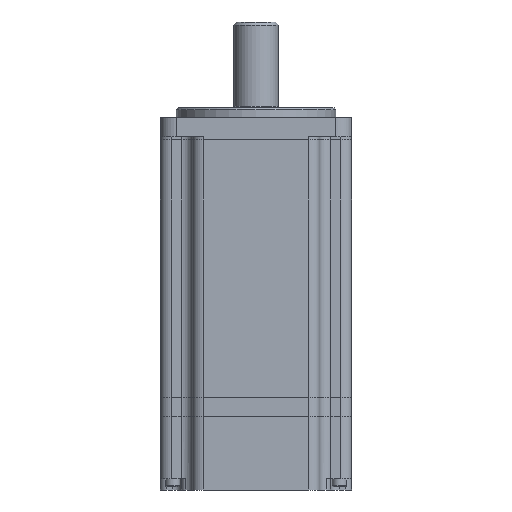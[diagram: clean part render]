
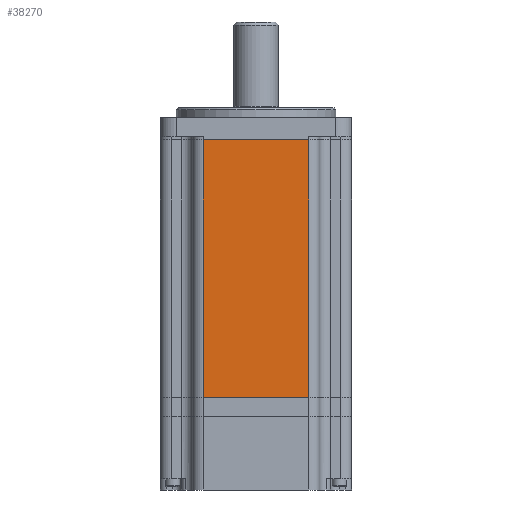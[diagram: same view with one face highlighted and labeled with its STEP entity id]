
A CAD part, front view. The second image highlights one B-rep face of the part: STEP entity #38270.
In plain terms, the highlighted planar face has unit normal (0, -1, 0).
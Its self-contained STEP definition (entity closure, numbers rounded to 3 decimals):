
#860 = LINE ( 'NONE', #16655, #31867 ) ;
#888 = CARTESIAN_POINT ( 'NONE',  ( -16.5, -30., -1. ) ) ;
#1382 = DIRECTION ( 'NONE',  ( 0., 0., 1. ) ) ;
#2162 = DIRECTION ( 'NONE',  ( 0., 0., 1. ) ) ;
#2744 = CARTESIAN_POINT ( 'NONE',  ( 20., -30., -1. ) ) ;
#2882 = DIRECTION ( 'NONE',  ( -1., 0., 0. ) ) ;
#3559 = ORIENTED_EDGE ( 'NONE', *, *, #10321, .T. ) ;
#4873 = VERTEX_POINT ( 'NONE', #37289 ) ;
#5170 = CARTESIAN_POINT ( 'NONE',  ( 16.5, -30., -82. ) ) ;
#6321 = FACE_OUTER_BOUND ( 'NONE', #38835, .T. ) ;
#10110 = CARTESIAN_POINT ( 'NONE',  ( 16.5, -30., -82. ) ) ;
#10321 = EDGE_CURVE ( 'NONE', #4873, #37955, #30004, .T. ) ;
#13172 = ORIENTED_EDGE ( 'NONE', *, *, #34667, .F. ) ;
#14316 = CARTESIAN_POINT ( 'NONE',  ( -16.5, -30., -82. ) ) ;
#15900 = EDGE_CURVE ( 'NONE', #22747, #4873, #29487, .T. ) ;
#16655 = CARTESIAN_POINT ( 'NONE',  ( 20., -30., -82. ) ) ;
#18432 = DIRECTION ( 'NONE',  ( 0., 0., -1. ) ) ;
#19230 = PLANE ( 'NONE',  #35333 ) ;
#19350 = DIRECTION ( 'NONE',  ( 0., 1., 0. ) ) ;
#19658 = DIRECTION ( 'NONE',  ( -1., 0., 0. ) ) ;
#21497 = LINE ( 'NONE', #30485, #30428 ) ;
#22006 = VECTOR ( 'NONE', #2882, 1000. ) ;
#22747 = VERTEX_POINT ( 'NONE', #10110 ) ;
#26084 = ORIENTED_EDGE ( 'NONE', *, *, #15900, .T. ) ;
#29487 = LINE ( 'NONE', #5170, #35610 ) ;
#30004 = LINE ( 'NONE', #2744, #22006 ) ;
#30428 = VECTOR ( 'NONE', #18432, 1000. ) ;
#30485 = CARTESIAN_POINT ( 'NONE',  ( -16.5, -30., -82. ) ) ;
#31867 = VECTOR ( 'NONE', #19658, 1000. ) ;
#34181 = CARTESIAN_POINT ( 'NONE',  ( 20., -30., -82. ) ) ;
#34667 = EDGE_CURVE ( 'NONE', #22747, #38816, #860, .T. ) ;
#34698 = ORIENTED_EDGE ( 'NONE', *, *, #35580, .T. ) ;
#35333 = AXIS2_PLACEMENT_3D ( 'NONE', #34181, #19350, #1382 ) ;
#35580 = EDGE_CURVE ( 'NONE', #37955, #38816, #21497, .T. ) ;
#35610 = VECTOR ( 'NONE', #2162, 1000. ) ;
#37289 = CARTESIAN_POINT ( 'NONE',  ( 16.5, -30., -1. ) ) ;
#37955 = VERTEX_POINT ( 'NONE', #888 ) ;
#38270 = ADVANCED_FACE ( 'NONE', ( #6321 ), #19230, .F. ) ;
#38816 = VERTEX_POINT ( 'NONE', #14316 ) ;
#38835 = EDGE_LOOP ( 'NONE', ( #13172, #26084, #3559, #34698 ) ) ;
